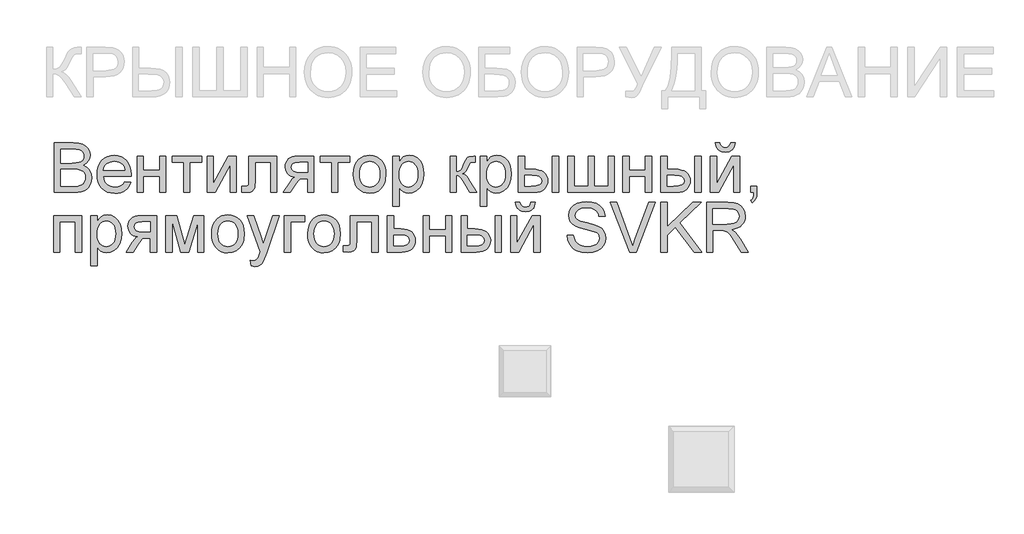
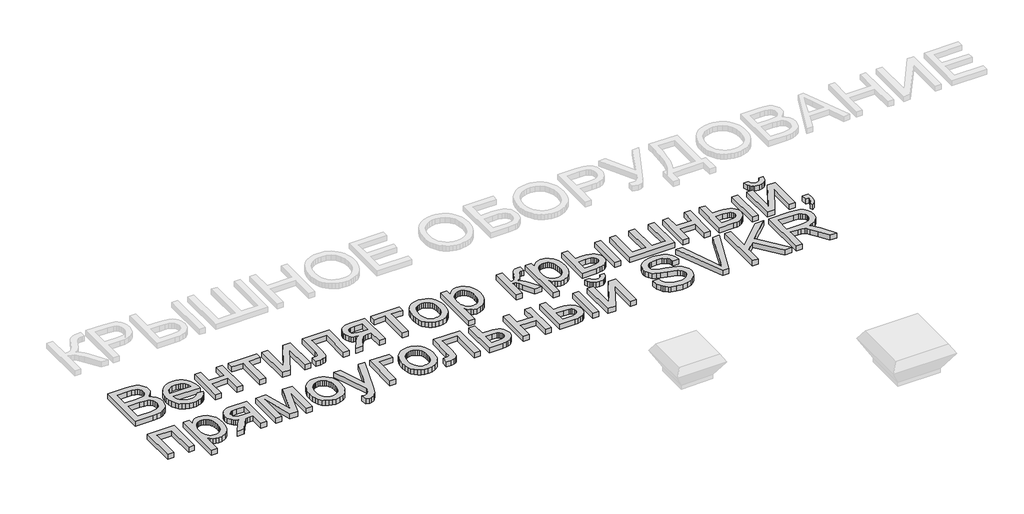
# One storey, part 30 of 31: 1 proxy.
"""IFC4 building model written with IfcOpenShell, lengths in millimetres."""

from ifc_helpers import new_model, si_unit, origin, origin_with_axes, place, context, project, spatial, polyline, outline, extrude, element, save

model = new_model("IFC4")

# Units and contexts
model_context = context("Model", 3, world=origin())
ifc_project = project(units=[si_unit("LENGTHUNIT", "METRE", prefix="MILLI")], contexts=[model_context])

# Site, building, storey
site = spatial("IfcSite", under=ifc_project)
building = spatial("IfcBuilding", under=site)
storey = spatial("IfcBuildingStorey", under=building, Name="Этаж 01", Elevation=0.0)

# Proxy
placement = place(None, origin())
element("IfcBuildingElementProxy", 1, Name="450 мм Arial", ObjectType="450 мм Arial", at=placement, inside=storey, context=model_context, shape_type="SweptSolid", body=[
    extrude(outline(polyline([(77219.0852891, -2479.5055236), (77219.0852891, -2029.8493808), (77390.6703846, -2029.8493808), (77437.8617749, -2033.1564832), (77474.7064631, -2043.0777903), (77502.9471962, -2059.8603056), (77524.326721, -2083.7510327), (77537.7884116, -2111.8545416), (77542.2756418, -2141.2754025), (77538.5019773, -2168.3497302), (77527.1809837, -2193.8048128), (77508.2303265, -2216.0762947), (77481.5676713, -2233.5998205), (77513.4173999, -2250.2313893), (77536.9513442, -2275.5355253), (77551.4833832, -2307.8380936), (77556.3273962, -2345.4649596), (77553.0202939, -2376.8206812), (77543.0989868, -2405.8984817), (77528.2924994, -2430.6262762), (77510.3298562, -2448.9319797), (77488.3328226, -2462.1878341), (77461.423164, -2471.7660807), (77428.7226455, -2477.5706629), (77389.3530327, -2479.5055236), (77219.0852891, -2479.5055236)]), holes=[polyline([(77275.292307, -2212.5221888), (77377.9359822, -2212.5221888), (77413.8338236, -2211.3146162), (77437.8754973, -2207.6918982), (77458.8570721, -2199.3623914), (77473.9380078, -2186.8887149), (77483.0359699, -2170.4629824), (77486.0686239, -2150.2773077), (77483.2418061, -2130.681697), (77474.7613528, -2113.6110109), (77461.0114915, -2100.2865445), (77442.3764499, -2091.9295929), (77413.778934, -2087.5246972), (77370.1416496, -2086.0563987), (77275.292307, -2086.0563987), (77275.292307, -2212.5221888)]), polyline([(77275.292307, -2423.2985058), (77390.5606053, -2423.2985058), (77432.2767514, -2421.1029192), (77451.639081, -2416.2314613), (77467.5708065, -2408.8625237), (77480.5247677, -2398.3099854), (77490.9538042, -2383.8877257), (77497.8287348, -2366.2406981), (77500.1203784, -2346.0138562), (77497.4307848, -2322.5210792), (77489.3620039, -2302.3216822), (77475.2690822, -2286.5271809), (77454.5070661, -2276.2490909), (77425.0999276, -2270.6091777), (77385.0716387, -2268.7292067), (77275.292307, -2268.7292067), (77275.292307, -2423.2985058)])]), origin_with_axes(), (0.0, 0.0, 1.0), 50.0),
    extrude(outline(polyline([(77857.7814412, -2381.1432424), (77912.8906657, -2388.1691196), (77904.4410878, -2410.2416265), (77893.0343291, -2429.6931519), (77878.6703897, -2446.5236957), (77861.3492695, -2460.7332579), (77841.24936, -2472.0199455), (77818.5490525, -2480.0818651), (77793.2483472, -2484.9190169), (77765.3472439, -2486.5314009), (77730.4717224, -2483.7491809), (77699.3973103, -2475.4025211), (77672.1240076, -2461.4914214), (77648.6518142, -2442.0158818), (77629.7766304, -2417.5179378), (77616.2943562, -2388.5396249), (77608.2049917, -2355.0809429), (77605.5085369, -2317.141892), (77608.2324365, -2277.9163645), (77616.4041355, -2243.3427362), (77630.0236339, -2213.4210071), (77649.0909316, -2188.1511772), (77672.5013741, -2168.0752819), (77699.1503068, -2153.7353567), (77729.0377299, -2145.1314016), (77762.1636433, -2142.2634165), (77794.2226387, -2145.1245404), (77823.2146741, -2153.7079119), (77849.1397494, -2168.013531), (77871.9978647, -2188.0413979), (77890.6569205, -2213.2563381), (77903.9848175, -2243.1231776), (77911.9815557, -2277.6419162), (77914.6471351, -2316.812554), (77914.3177971, -2331.9621018), (77661.7155547, -2331.9621018), (77664.971198, -2354.3913915), (77671.444748, -2374.0350307), (77681.1362046, -2390.8930193), (77694.0455679, -2404.9653574), (77709.4592722, -2416.0599311), (77726.6637519, -2423.9846266), (77745.6590069, -2428.7394439), (77766.4450372, -2430.324383), (77796.3599051, -2427.3877859), (77821.5542617, -2418.5779945), (77842.0281071, -2403.3461122), (77857.7814412, -2381.1432424)]), holes=[polyline([(77661.7155547, -2275.7550839), (77858.4401172, -2275.7550839), (77850.8378985, -2246.0597747), (77835.9353542, -2224.817474), (77820.607415, -2213.2906442), (77803.1662237, -2205.0571943), (77783.6117802, -2200.1171244), (77761.9440846, -2198.4704344), (77724.0564927, -2203.7261199), (77692.7282159, -2219.4931764), (77680.2716924, -2230.8930739), (77670.950741, -2244.0700243), (77664.7653618, -2259.0240276), (77661.7155547, -2275.7550839)])]), origin_with_axes(), (0.0, 0.0, 1.0), 50.0),
    extrude(outline(polyline([(77970.8541529, -2149.2892938), (78027.0611708, -2149.2892938), (78027.0611708, -2275.7550839), (78174.6045926, -2275.7550839), (78174.6045926, -2149.2892938), (78230.8116105, -2149.2892938), (78230.8116105, -2479.5055236), (78174.6045926, -2479.5055236), (78174.6045926, -2331.9621018), (78027.0611708, -2331.9621018), (78027.0611708, -2479.5055236), (77970.8541529, -2479.5055236), (77970.8541529, -2149.2892938)])), origin_with_axes(), (0.0, 0.0, 1.0), 50.0),
    extrude(outline(polyline([(78287.0186283, -2149.2892938), (78554.0019631, -2149.2892938), (78554.0019631, -2205.4963116), (78448.6138046, -2205.4963116), (78448.6138046, -2479.5055236), (78392.4067868, -2479.5055236), (78392.4067868, -2205.4963116), (78287.0186283, -2205.4963116), (78287.0186283, -2149.2892938)])), origin_with_axes(), (0.0, 0.0, 1.0), 50.0),
    extrude(outline(polyline([(78603.1831037, -2149.2892938), (78659.3901216, -2149.2892938), (78659.3901216, -2401.1230808), (78797.4925209, -2149.2892938), (78870.1664385, -2149.2892938), (78870.1664385, -2479.5055236), (78813.9594207, -2479.5055236), (78813.9594207, -2229.2086473), (78676.735256, -2479.5055236), (78603.1831037, -2479.5055236), (78603.1831037, -2149.2892938)])), origin_with_axes(), (0.0, 0.0, 1.0), 50.0),
    extrude(outline(polyline([(78982.5804742, -2149.2892938), (79235.5120546, -2149.2892938), (79235.5120546, -2479.1761856), (79179.3050367, -2479.1761856), (79179.3050367, -2205.4963116), (79038.7874921, -2205.4963116), (79038.7874921, -2363.0296527), (79035.0001051, -2435.7035703), (79027.9056158, -2452.1567476), (79014.1969218, -2466.3868935), (78993.3937384, -2476.2258661), (78965.0157812, -2479.5055236), (78919.3475792, -2476.651261), (78919.3475792, -2423.2985058), (78944.4870461, -2423.2985058), (78969.9009614, -2419.8404568), (78976.2544403, -2415.3669491), (78980.0555496, -2408.8625237), (78982.5804742, -2359.846052), (78982.5804742, -2149.2892938)])), origin_with_axes(), (0.0, 0.0, 1.0), 50.0),
    extrude(outline(polyline([(79572.7541617, -2149.2892938), (79572.7541617, -2479.5055236), (79516.5471438, -2479.5055236), (79516.5471438, -2353.0397335), (79485.9187103, -2353.0397335), (79461.492809, -2354.8236476), (79444.2025642, -2360.17539), (79427.5435506, -2375.7366103), (79405.0113428, -2408.148958), (79360.2213754, -2479.5055236), (79295.232011, -2479.5055236), (79351.6585876, -2389.2669129), (79376.5784959, -2356.8820101), (79388.2974395, -2347.4409876), (79399.5223762, -2342.5009176), (79378.8838618, -2337.9382141), (79361.0996101, -2330.7270843), (79346.169621, -2320.8675281), (79334.0938945, -2308.3595455), (79318.1210017, -2278.6093465), (79312.7967041, -2244.687533), (79314.6149243, -2224.4469688), (79320.0695849, -2206.2098773), (79329.1606858, -2189.9762586), (79341.888227, -2175.7461127), (79358.0600948, -2164.1712544), (79377.4841754, -2155.9034985), (79400.1604686, -2150.9428449), (79426.0889745, -2149.2892938), (79572.7541617, -2149.2892938)]), holes=[polyline([(79516.5471438, -2205.4963116), (79442.4460949, -2205.4963116), (79404.1742754, -2208.7485243), (79391.2443285, -2212.8137902), (79382.4516901, -2218.5051624), (79372.365714, -2232.625529), (79369.003722, -2248.968927), (79373.9575143, -2270.3896191), (79388.8188914, -2285.2509961), (79416.2774467, -2293.9372857), (79459.022774, -2296.8327156), (79516.5471438, -2296.8327156), (79516.5471438, -2205.4963116)])]), origin_with_axes(), (0.0, 0.0, 1.0), 50.0),
    extrude(outline(polyline([(79628.9611795, -2149.2892938), (79895.9445143, -2149.2892938), (79895.9445143, -2205.4963116), (79790.5563559, -2205.4963116), (79790.5563559, -2479.5055236), (79734.349338, -2479.5055236), (79734.349338, -2205.4963116), (79628.9611795, -2205.4963116), (79628.9611795, -2149.2892938)])), origin_with_axes(), (0.0, 0.0, 1.0), 50.0),
    extrude(outline(polyline([(79931.0739005, -2314.3974087), (79934.1134157, -2271.6314978), (79943.2319615, -2234.7799484), (79958.4295377, -2203.8427604), (79979.7061445, -2178.819934), (80001.1268366, -2162.8264576), (80024.7705601, -2151.4025459), (80050.6373152, -2144.5481989), (80078.7271017, -2142.2634165), (80109.7363323, -2145.0456365), (80137.7746598, -2153.3922963), (80162.842084, -2167.303396), (80184.9386052, -2186.7789355), (80202.973291, -2211.160239), (80215.8552095, -2239.7886304), (80223.5843605, -2272.6641096), (80226.1607442, -2309.7866768), (80221.604902, -2366.5700361), (80215.9100991, -2389.8775605), (80207.9373752, -2409.795648), (80185.5561139, -2442.1668284), (80154.8590683, -2466.3868935), (80118.3986077, -2481.495274), (80078.7271017, -2486.5314009), (80047.2650313, -2483.7594727), (80018.965978, -2475.4436884), (79993.8299416, -2461.5840477), (79971.8569222, -2442.1805508), (79954.0143502, -2417.5625357), (79941.2696559, -2388.0593403), (79933.6228394, -2353.6709646), (79931.0739005, -2314.3974087)]), holes=[polyline([(79987.2809183, -2314.2876294), (79988.9070247, -2341.5506403), (79993.7853438, -2365.1566272), (80001.9158755, -2385.1055902), (80013.29862, -2401.3975291), (80027.1445382, -2414.0530277), (80042.6645912, -2423.0926695), (80059.858779, -2428.5164546), (80078.7271017, -2430.324383), (80097.4993674, -2428.5061628), (80114.6249432, -2423.0515023), (80130.1038289, -2413.9604014), (80143.9360247, -2401.2328601), (80155.3187692, -2384.7796828), (80163.449301, -2364.5116736), (80168.32762, -2340.4288327), (80169.9537264, -2312.5311601), (80168.3173282, -2286.1326614), (80163.4081337, -2263.1441832), (80155.2261429, -2243.5657255), (80143.7713557, -2227.3972883), (80129.8877009, -2214.7417897), (80114.4191069, -2205.7021479), (80097.3655739, -2200.2783627), (80078.7271017, -2198.4704344), (80059.858779, -2200.2715015), (80042.6645912, -2205.674703), (80027.1445382, -2214.6800388), (80013.29862, -2227.287509), (80001.9158755, -2243.5314195), (79993.7853438, -2263.4460764), (79988.9070247, -2287.0314797), (79987.2809183, -2314.2876294)])]), origin_with_axes(), (0.0, 0.0, 1.0), 50.0),
    extrude(outline(polyline([(80289.3936393, -2605.9713138), (80289.3936393, -2149.2892938), (80345.6006572, -2149.2892938), (80345.6006572, -2204.3985183), (80363.9338056, -2177.2144113), (80384.4625406, -2157.797192), (80408.3944349, -2146.1468604), (80436.9370612, -2142.2634165), (80474.9481548, -2147.6974934), (80508.1838475, -2163.9997242), (80535.2444527, -2190.1820948), (80554.7302841, -2225.2565913), (80566.5041175, -2266.6708442), (80570.4287286, -2311.8724841), (80565.996388, -2359.942109), (80552.6993665, -2402.9344397), (80530.9630588, -2438.6676122), (80501.2128599, -2464.9597622), (80466.5637583, -2481.1384912), (80430.1307426, -2486.5314009), (80404.2914324, -2482.9224053), (80381.2240503, -2472.0954187), (80361.477493, -2455.7520207), (80345.6006572, -2435.5937909), (80345.6006572, -2605.9713138), (80289.3936393, -2605.9713138)]), holes=[polyline([(80345.6006572, -2317.0321127), (80347.1204148, -2344.1201628), (80351.6796877, -2367.4208259), (80359.2784758, -2386.9341021), (80369.9167791, -2402.6599914), (80382.7232243, -2414.7631627), (80396.8264378, -2423.4082851), (80412.2264197, -2428.5953585), (80428.92317, -2430.324383), (80445.8600625, -2428.5336077), (80461.5413539, -2423.1612816), (80475.9670442, -2414.2074049), (80489.1371334, -2401.6719774), (80500.111636, -2385.3766079), (80507.9505664, -2365.1429048), (80512.6539246, -2340.9708682), (80514.2217107, -2312.8604981), (80512.6916613, -2286.005729), (80508.101513, -2262.7462331), (80500.4512658, -2243.0820103), (80489.7409197, -2227.0130606), (80476.9035991, -2214.5256616), (80462.8724283, -2205.6060909), (80447.6474072, -2200.2543485), (80431.2285359, -2198.4704344), (80414.8611237, -2200.3675585), (80399.4611418, -2206.0589307), (80385.0285903, -2215.5445511), (80371.5634691, -2228.8244196), (80360.2047389, -2245.7201449), (80352.0913601, -2266.0533355), (80347.2233329, -2289.8239914), (80345.6006572, -2317.0321127)])]), origin_with_axes(), (0.0, 0.0, 1.0), 50.0),
    extrude(outline(polyline([(80809.3085544, -2149.2892938), (80865.5155723, -2149.2892938), (80865.5155723, -2289.8068384), (80888.3771181, -2287.2819138), (80903.1698831, -2279.7071399), (80916.2610684, -2259.9468602), (80934.0178753, -2220.8654181), (80948.3303557, -2188.9059101), (80959.6513493, -2170.0924771), (80970.2176099, -2159.841832), (80982.2658916, -2153.5706877), (81023.3782513, -2149.2892938), (81034.1366258, -2149.2892938), (81034.1366258, -2205.8256496), (81018.9870781, -2205.4963116), (81001.422385, -2206.9783326), (80991.5422451, -2211.4243955), (80972.2210827, -2248.4200303), (80960.3511925, -2273.0792127), (80949.5516507, -2288.4345967), (80936.4741878, -2298.6852418), (80917.7705342, -2308.0302075), (80935.5822308, -2315.9411805), (80953.2292584, -2329.9037393), (80970.7116169, -2349.9178837), (80988.0293065, -2375.9836138), (81048.1883803, -2479.5055236), (80984.2968092, -2479.5055236), (80925.3453081, -2378.1792004), (80909.427305, -2351.2146521), (80895.7048885, -2335.3103714), (80881.8452479, -2327.5297613), (80865.5155723, -2324.9362245), (80865.5155723, -2479.5055236), (80809.3085544, -2479.5055236), (80809.3085544, -2149.2892938)])), origin_with_axes(), (0.0, 0.0, 1.0), 50.0),
    extrude(outline(polyline([(81083.3177665, -2605.9713138), (81083.3177665, -2149.2892938), (81139.5247843, -2149.2892938), (81139.5247843, -2204.3985183), (81157.8579327, -2177.2144113), (81178.3866678, -2157.797192), (81202.3185621, -2146.1468604), (81230.8611883, -2142.2634165), (81268.8722819, -2147.6974934), (81302.1079746, -2163.9997242), (81329.1685799, -2190.1820948), (81348.6544113, -2225.2565913), (81360.4282446, -2266.6708442), (81364.3528557, -2311.8724841), (81359.9205152, -2359.942109), (81346.6234937, -2402.9344397), (81324.887186, -2438.6676122), (81295.1369871, -2464.9597622), (81260.4878855, -2481.1384912), (81224.0548698, -2486.5314009), (81198.2155596, -2482.9224053), (81175.1481775, -2472.0954187), (81155.4016202, -2455.7520207), (81139.5247843, -2435.5937909), (81139.5247843, -2605.9713138), (81083.3177665, -2605.9713138)]), holes=[polyline([(81139.5247843, -2317.0321127), (81141.0445419, -2344.1201628), (81145.6038148, -2367.4208259), (81153.2026029, -2386.9341021), (81163.8409063, -2402.6599914), (81176.6473515, -2414.7631627), (81190.750565, -2423.4082851), (81206.1505469, -2428.5953585), (81222.8472971, -2430.324383), (81239.7841896, -2428.5336077), (81255.4654811, -2423.1612816), (81269.8911714, -2414.2074049), (81283.0612606, -2401.6719774), (81294.0357631, -2385.3766079), (81301.8746936, -2365.1429048), (81306.5780518, -2340.9708682), (81308.1458379, -2312.8604981), (81306.6157884, -2286.005729), (81302.0256401, -2262.7462331), (81294.375393, -2243.0820103), (81283.6650469, -2227.0130606), (81270.8277263, -2214.5256616), (81256.7965555, -2205.6060909), (81241.5715344, -2200.2543485), (81225.1526631, -2198.4704344), (81208.7852508, -2200.3675585), (81193.385269, -2206.0589307), (81178.9527174, -2215.5445511), (81165.4875963, -2228.8244196), (81154.128866, -2245.7201449), (81146.0154873, -2266.0533355), (81141.1474601, -2289.8239914), (81139.5247843, -2317.0321127)])]), origin_with_axes(), (0.0, 0.0, 1.0), 50.0),
    extrude(outline(polyline([(81427.5857508, -2149.2892938), (81483.7927687, -2149.2892938), (81483.7927687, -2268.7292067), (81553.2830857, -2268.7292067), (81585.2597466, -2270.4891066), (81613.3461025, -2275.7688063), (81637.5421534, -2284.5683059), (81657.8478991, -2296.8876053), (81673.9134182, -2312.3013096), (81685.388789, -2330.3840239), (81692.2740115, -2351.1357482), (81694.5690856, -2374.5564825), (81692.6445167, -2395.4522922), (81686.87081, -2414.7768852), (81677.2479654, -2432.5302615), (81663.7759831, -2448.7124211), (81646.0774964, -2462.1844035), (81623.7751391, -2471.807248), (81596.868911, -2477.5809547), (81565.3588121, -2479.5055236), (81427.5857508, -2479.5055236), (81427.5857508, -2149.2892938)]), holes=[polyline([(81483.7927687, -2423.2985058), (81541.5366972, -2423.2985058), (81586.2992197, -2420.3481862), (81616.0768634, -2411.4972276), (81632.7907667, -2396.3888471), (81638.3620678, -2374.6662618), (81634.2316204, -2356.3056686), (81621.8402783, -2340.0857723), (81611.0853344, -2333.4578452), (81595.3422921, -2328.7236115), (81548.8919124, -2324.9362245), (81483.7927687, -2324.9362245), (81483.7927687, -2423.2985058)])]), origin_with_axes(), (0.0, 0.0, 1.0), 50.0),
    extrude(outline(polyline([(81736.724349, -2149.2892938), (81792.9313669, -2149.2892938), (81792.9313669, -2479.5055236), (81736.724349, -2479.5055236), (81736.724349, -2149.2892938)])), origin_with_axes(), (0.0, 0.0, 1.0), 50.0),
    extrude(outline(polyline([(81877.2418936, -2149.2892938), (81933.4489115, -2149.2892938), (81933.4489115, -2423.2985058), (82059.9147016, -2423.2985058), (82059.9147016, -2149.2892938), (82116.1217195, -2149.2892938), (82116.1217195, -2423.2985058), (82242.5875097, -2423.2985058), (82242.5875097, -2149.2892938), (82298.7945275, -2149.2892938), (82298.7945275, -2479.5055236), (81877.2418936, -2479.5055236), (81877.2418936, -2149.2892938)])), origin_with_axes(), (0.0, 0.0, 1.0), 50.0),
    extrude(outline(polyline([(82376.0791771, -2149.2892938), (82432.2861949, -2149.2892938), (82432.2861949, -2275.7550839), (82579.8296168, -2275.7550839), (82579.8296168, -2149.2892938), (82636.0366346, -2149.2892938), (82636.0366346, -2479.5055236), (82579.8296168, -2479.5055236), (82579.8296168, -2331.9621018), (82432.2861949, -2331.9621018), (82432.2861949, -2479.5055236), (82376.0791771, -2479.5055236), (82376.0791771, -2149.2892938)])), origin_with_axes(), (0.0, 0.0, 1.0), 50.0),
    extrude(outline(polyline([(82720.3471614, -2149.2892938), (82776.5541793, -2149.2892938), (82776.5541793, -2268.7292067), (82846.0444963, -2268.7292067), (82878.0211572, -2270.4891066), (82906.1075131, -2275.7688063), (82930.303564, -2284.5683059), (82950.6093097, -2296.8876053), (82966.6748288, -2312.3013096), (82978.1501996, -2330.3840239), (82985.0354221, -2351.1357482), (82987.3304962, -2374.5564825), (82985.4059273, -2395.4522922), (82979.6322206, -2414.7768852), (82970.009376, -2432.5302615), (82956.5373937, -2448.7124211), (82938.838907, -2462.1844035), (82916.5365497, -2471.807248), (82889.6303216, -2477.5809547), (82858.1202227, -2479.5055236), (82720.3471614, -2479.5055236), (82720.3471614, -2149.2892938)]), holes=[polyline([(82776.5541793, -2423.2985058), (82834.2981078, -2423.2985058), (82879.0606303, -2420.3481862), (82908.838274, -2411.4972276), (82925.5521773, -2396.3888471), (82931.1234784, -2374.6662618), (82926.993031, -2356.3056686), (82914.6016889, -2340.0857723), (82903.846745, -2333.4578452), (82888.1037027, -2328.7236115), (82841.653323, -2324.9362245), (82776.5541793, -2324.9362245), (82776.5541793, -2423.2985058)])]), origin_with_axes(), (0.0, 0.0, 1.0), 50.0),
    extrude(outline(polyline([(83029.4857596, -2149.2892938), (83085.6927775, -2149.2892938), (83085.6927775, -2479.5055236), (83029.4857596, -2479.5055236), (83029.4857596, -2149.2892938)])), origin_with_axes(), (0.0, 0.0, 1.0), 50.0),
    extrude(outline(polyline([(83170.0033042, -2149.2892938), (83226.2103221, -2149.2892938), (83226.2103221, -2401.1230808), (83364.3127214, -2149.2892938), (83436.986639, -2149.2892938), (83436.986639, -2479.5055236), (83380.7796212, -2479.5055236), (83380.7796212, -2229.2086473), (83243.5554565, -2479.5055236), (83170.0033042, -2479.5055236), (83170.0033042, -2149.2892938)])), origin_with_axes(), (0.0, 0.0, 1.0), 50.0),
    extrude(outline(polyline([(83352.6761122, -2029.8493808), (83394.8313756, -2029.8493808), (83385.7608584, -2065.8432792), (83377.7984262, -2080.2895532), (83367.5512117, -2092.3687102), (83355.2250511, -2101.9023591), (83341.0257807, -2108.7121083), (83307.0079102, -2114.1599076), (83270.0946099, -2108.7532755), (83254.7460871, -2101.9949854), (83241.4696492, -2092.5333792), (83230.45741, -2080.5056812), (83221.9014833, -2066.0491155), (83212.1585676, -2029.8493808), (83254.313831, -2029.8493808), (83260.2419149, -2048.3609206), (83270.1220548, -2061.520718), (83284.0091402, -2069.3836627), (83301.958061, -2072.0046442), (83322.2123477, -2069.4659972), (83336.8678885, -2061.850056), (83346.7480283, -2048.7725931), (83352.6761122, -2029.8493808)])), origin_with_axes(), (0.0, 0.0, 1.0), 50.0),
    extrude(outline(polyline([(83535.3489203, -2479.5055236), (83535.3489203, -2423.2985058), (83591.5559381, -2423.2985058), (83591.5559381, -2479.5055236), (83589.0310135, -2511.6571454), (83581.4562396, -2536.9750038), (83568.3924991, -2556.3922231), (83549.4006747, -2570.8419276), (83535.3489203, -2549.764296), (83547.5344261, -2539.5822629), (83555.9874346, -2525.5030636), (83561.1196184, -2505.9897874), (83563.3426499, -2479.5055236), (83535.3489203, -2479.5055236)])), origin_with_axes(), (0.0, 0.0, 1.0), 50.0),
    extrude(outline(polyline([(77212.0594119, -2689.7213769), (77464.9909922, -2689.7213769), (77464.9909922, -3019.9376068), (77408.7839744, -3019.9376068), (77408.7839744, -2745.9283948), (77268.2664298, -2745.9283948), (77268.2664298, -3019.9376068), (77212.0594119, -3019.9376068), (77212.0594119, -2689.7213769)])), origin_with_axes(), (0.0, 0.0, 1.0), 50.0),
    extrude(outline(polyline([(77549.301519, -3146.403397), (77549.301519, -2689.7213769), (77605.5085369, -2689.7213769), (77605.5085369, -2744.8306015), (77623.8416853, -2717.6464944), (77644.3704203, -2698.2292751), (77668.3023146, -2686.5789436), (77696.8449409, -2682.6954997), (77734.8560345, -2688.1295766), (77768.0917272, -2704.4318074), (77795.1523324, -2730.614178), (77814.6381638, -2765.6886745), (77826.4119972, -2807.1029274), (77830.3366083, -2852.3045672), (77825.9042678, -2900.3741921), (77812.6072462, -2943.3665229), (77790.8709385, -2979.0996954), (77761.1207396, -3005.3918454), (77726.471638, -3021.5705744), (77690.0386223, -3026.963484), (77664.1993121, -3023.3544885), (77641.13193, -3012.5275019), (77621.3853727, -2996.1841039), (77605.5085369, -2976.0258741), (77605.5085369, -3146.403397), (77549.301519, -3146.403397)]), holes=[polyline([(77605.5085369, -2857.4641958), (77607.0282945, -2884.5522459), (77611.5875674, -2907.8529091), (77619.1863555, -2927.3661853), (77629.8246588, -2943.0920746), (77642.631104, -2955.1952459), (77656.7343175, -2963.8403683), (77672.1342994, -2969.0274417), (77688.8310497, -2970.7564662), (77705.7679422, -2968.9656908), (77721.4492336, -2963.5933648), (77735.8749239, -2954.6394881), (77749.0450131, -2942.1040606), (77760.0195157, -2925.8086911), (77767.8584461, -2905.574988), (77772.5618043, -2881.4029514), (77774.1295904, -2853.2925812), (77772.599541, -2826.4378122), (77768.0093927, -2803.1783163), (77760.3591455, -2783.5140935), (77749.6487994, -2767.4451438), (77736.8114788, -2754.9577448), (77722.780308, -2746.0381741), (77707.5552869, -2740.6864317), (77691.1364156, -2738.9025176), (77674.7690034, -2740.7996416), (77659.3690215, -2746.4910139), (77644.93647, -2755.9766342), (77631.4713488, -2769.2565028), (77620.1126186, -2786.1522281), (77611.9992399, -2806.4854187), (77607.1312126, -2830.2560746), (77605.5085369, -2857.4641958)])]), origin_with_axes(), (0.0, 0.0, 1.0), 50.0),
    extrude(outline(polyline([(78146.5010837, -2689.7213769), (78146.5010837, -3019.9376068), (78090.2940658, -3019.9376068), (78090.2940658, -2893.4718166), (78059.6656323, -2893.4718166), (78035.239731, -2895.2557308), (78017.9494862, -2900.6074732), (78001.2904726, -2916.1686935), (77978.7582648, -2948.5810412), (77933.9682974, -3019.9376068), (77868.978933, -3019.9376068), (77925.4055096, -2929.6989961), (77950.3254179, -2897.3140933), (77962.0443615, -2887.8730707), (77973.2692982, -2882.9330008), (77952.6307838, -2878.3702973), (77934.8465321, -2871.1591675), (77919.916543, -2861.2996112), (77907.8408165, -2848.7916286), (77891.8679237, -2819.0414297), (77886.5436261, -2785.1196162), (77888.3618463, -2764.8790519), (77893.8165069, -2746.6419604), (77902.9076078, -2730.4083418), (77915.635149, -2716.1781959), (77931.8070168, -2704.6033376), (77951.2310974, -2696.3355817), (77973.9073906, -2691.3749281), (77999.8358965, -2689.7213769), (78146.5010837, -2689.7213769)]), holes=[polyline([(78090.2940658, -2745.9283948), (78016.1930169, -2745.9283948), (77977.9211974, -2749.1806075), (77964.9912505, -2753.2458734), (77956.1986121, -2758.9372456), (77946.112636, -2773.0576121), (77942.750644, -2789.4010102), (77947.7044363, -2810.8217023), (77962.5658134, -2825.6830793), (77990.0243687, -2834.3693689), (78032.769696, -2837.2647988), (78090.2940658, -2837.2647988), (78090.2940658, -2745.9283948)])]), origin_with_axes(), (0.0, 0.0, 1.0), 50.0),
    extrude(outline(polyline([(78230.8116105, -2689.7213769), (78327.5272017, -2689.7213769), (78402.067368, -2954.0700078), (78482.4258388, -2689.7213769), (78575.0795948, -2689.7213769), (78575.0795948, -3019.9376068), (78518.872577, -3019.9376068), (78518.872577, -2754.0520653), (78438.0749888, -3019.9376068), (78364.3032779, -3019.9376068), (78287.0186283, -2741.3176629), (78287.0186283, -3019.9376068), (78230.8116105, -3019.9376068), (78230.8116105, -2689.7213769)])), origin_with_axes(), (0.0, 0.0, 1.0), 50.0),
    extrude(outline(polyline([(78645.3383671, -2854.8294919), (78648.3778824, -2812.063581), (78657.4964281, -2775.2120315), (78672.6940044, -2744.2748436), (78693.9706111, -2719.2520172), (78715.3913032, -2703.2585408), (78739.0350268, -2691.8346291), (78764.9017818, -2684.980282), (78792.9915683, -2682.6954997), (78824.0007989, -2685.4777196), (78852.0391264, -2693.8243795), (78877.1065507, -2707.7354792), (78899.2030718, -2727.2110187), (78917.2377576, -2751.5923222), (78930.1196761, -2780.2207135), (78937.8488272, -2813.0961928), (78940.4252109, -2850.2187599), (78935.8693686, -2907.0021193), (78930.1745658, -2930.3096437), (78922.2018418, -2950.2277312), (78899.8205805, -2982.5989116), (78869.1235349, -3006.8189767), (78832.6630743, -3021.9273572), (78792.9915683, -3026.963484), (78761.529498, -3024.1915559), (78733.2304446, -3015.8757715), (78708.0944082, -3002.0161309), (78686.1213889, -2982.612634), (78668.2788169, -2957.9946189), (78655.5341226, -2928.4914235), (78647.887306, -2894.1030478), (78645.3383671, -2854.8294919)]), holes=[polyline([(78701.545385, -2854.7197125), (78703.1714913, -2881.9827235), (78708.0498104, -2905.5887104), (78716.1803421, -2925.5376733), (78727.5630866, -2941.8296123), (78741.4090048, -2954.4851109), (78756.9290578, -2963.5247527), (78774.1232457, -2968.9485378), (78792.9915683, -2970.7564662), (78811.7638341, -2968.938246), (78828.8894098, -2963.4835855), (78844.3682956, -2954.3924846), (78858.2004914, -2941.6649433), (78869.5832358, -2925.2117659), (78877.7137676, -2904.9437568), (78882.5920866, -2880.8609159), (78884.218193, -2852.9632432), (78882.5817948, -2826.5647446), (78877.6726003, -2803.5762664), (78869.4906095, -2783.9978087), (78858.0358224, -2767.8293715), (78844.1521675, -2755.1738729), (78828.6835736, -2746.134231), (78811.6300405, -2740.7104459), (78792.9915683, -2738.9025176), (78774.1232457, -2740.7035847), (78756.9290578, -2746.1067862), (78741.4090048, -2755.112122), (78727.5630866, -2767.7195921), (78716.1803421, -2783.9635026), (78708.0498104, -2803.8781595), (78703.1714913, -2827.4635628), (78701.545385, -2854.7197125)])]), origin_with_axes(), (0.0, 0.0, 1.0), 50.0),
    extrude(outline(polyline([(79003.6581059, -3146.403397), (78996.6322287, -3092.2821864), (79025.174855, -3097.2222564), (79040.1871786, -3095.6716233), (79051.8512326, -3091.0197241), (79068.208353, -3073.7294794), (79083.5774594, -3032.3426713), (79087.9686327, -3018.7300342), (78968.5287198, -2689.7213769), (79027.8095589, -2689.7213769), (79091.1522333, -2873.0528609), (79113.217879, -2946.3854545), (79135.2835247, -2881.6156488), (79200.3826684, -2689.7213769), (79259.2243902, -2689.7213769), (79144.2854299, -3027.8417187), (79114.4254517, -3101.1743123), (79099.1386797, -3124.5847548), (79081.8209901, -3140.8046511), (79061.7039276, -3150.2731184), (79038.0190368, -3153.4292742), (79003.6581059, -3146.403397)])), origin_with_axes(), (0.0, 0.0, 1.0), 50.0),
    extrude(outline(polyline([(79305.7708269, -2689.7213769), (79488.4436349, -2689.7213769), (79488.4436349, -2745.9283948), (79361.9778447, -2745.9283948), (79361.9778447, -3019.9376068), (79305.7708269, -3019.9376068), (79305.7708269, -2689.7213769)])), origin_with_axes(), (0.0, 0.0, 1.0), 50.0),
    extrude(outline(polyline([(79516.5471438, -2854.8294919), (79519.5866591, -2812.063581), (79528.7052048, -2775.2120315), (79543.9027811, -2744.2748436), (79565.1793878, -2719.2520172), (79586.6000799, -2703.2585408), (79610.2438035, -2691.8346291), (79636.1105585, -2684.980282), (79664.200345, -2682.6954997), (79695.2095756, -2685.4777196), (79723.2479031, -2693.8243795), (79748.3153274, -2707.7354792), (79770.4118485, -2727.2110187), (79788.4465343, -2751.5923222), (79801.3284528, -2780.2207135), (79809.0576039, -2813.0961928), (79811.6339876, -2850.2187599), (79807.0781453, -2907.0021193), (79801.3833425, -2930.3096437), (79793.4106185, -2950.2277312), (79771.0293572, -2982.5989116), (79740.3323116, -3006.8189767), (79703.871851, -3021.9273572), (79664.200345, -3026.963484), (79632.7382747, -3024.1915559), (79604.4392213, -3015.8757715), (79579.3031849, -3002.0161309), (79557.3301656, -2982.612634), (79539.4875936, -2957.9946189), (79526.7428993, -2928.4914235), (79519.0960827, -2894.1030478), (79516.5471438, -2854.8294919)]), holes=[polyline([(79572.7541617, -2854.7197125), (79574.380268, -2881.9827235), (79579.2585871, -2905.5887104), (79587.3891189, -2925.5376733), (79598.7718633, -2941.8296123), (79612.6177815, -2954.4851109), (79628.1378346, -2963.5247527), (79645.3320224, -2968.9485378), (79664.200345, -2970.7564662), (79682.9726108, -2968.938246), (79700.0981865, -2963.4835855), (79715.5770723, -2954.3924846), (79729.4092681, -2941.6649433), (79740.7920125, -2925.2117659), (79748.9225443, -2904.9437568), (79753.8008634, -2880.8609159), (79755.4269697, -2852.9632432), (79753.7905715, -2826.5647446), (79748.8813771, -2803.5762664), (79740.6993862, -2783.9978087), (79729.2445991, -2767.8293715), (79715.3609442, -2755.1738729), (79699.8923503, -2746.134231), (79682.8388172, -2740.7104459), (79664.200345, -2738.9025176), (79645.3320224, -2740.7035847), (79628.1378346, -2746.1067862), (79612.6177815, -2755.112122), (79598.7718633, -2767.7195921), (79587.3891189, -2783.9635026), (79579.2585871, -2803.8781595), (79574.380268, -2827.4635628), (79572.7541617, -2854.7197125)])]), origin_with_axes(), (0.0, 0.0, 1.0), 50.0),
    extrude(outline(polyline([(79902.9703916, -2689.7213769), (80155.9019719, -2689.7213769), (80155.9019719, -3019.6082688), (80099.6949541, -3019.6082688), (80099.6949541, -2745.9283948), (79959.1774094, -2745.9283948), (79959.1774094, -2903.4617358), (79955.3900225, -2976.1356535), (79948.2955332, -2992.5888308), (79934.5868391, -3006.8189767), (79913.7836557, -3016.6579493), (79885.4056985, -3019.9376068), (79839.7374965, -3017.0833442), (79839.7374965, -2963.730589), (79864.8769635, -2963.730589), (79890.2908788, -2960.27254), (79896.6443576, -2955.7990322), (79900.4454669, -2949.2946068), (79902.9703916, -2900.2781352), (79902.9703916, -2689.7213769)])), origin_with_axes(), (0.0, 0.0, 1.0), 50.0),
    extrude(outline(polyline([(80240.2124987, -2689.7213769), (80296.4195165, -2689.7213769), (80296.4195165, -2809.1612899), (80361.1893223, -2809.1612899), (80391.0904677, -2810.9211898), (80417.3414505, -2816.2008895), (80439.9422704, -2825.0003891), (80458.8929275, -2837.3196885), (80473.8778063, -2852.7333928), (80484.5812911, -2870.8161071), (80491.0033821, -2891.5678314), (80493.144079, -2914.9885657), (80491.3224282, -2935.8843753), (80485.8574759, -2955.2089683), (80476.7492219, -2972.9623446), (80463.9976664, -2989.1445043), (80447.2391653, -3002.6164866), (80426.1100746, -3012.2393312), (80400.6103942, -3018.0130379), (80370.7401241, -3019.9376068), (80240.2124987, -3019.9376068), (80240.2124987, -2689.7213769)]), holes=[polyline([(80296.4195165, -2963.730589), (80348.8940371, -2963.730589), (80389.6084468, -2960.7802694), (80416.6827745, -2951.9293108), (80431.8734895, -2936.8209303), (80436.9370612, -2915.098345), (80433.1908415, -2896.7377518), (80421.9521824, -2880.5178555), (80412.1852525, -2873.8899283), (80397.8693415, -2869.1556947), (80355.5905763, -2865.3683077), (80296.4195165, -2865.3683077), (80296.4195165, -2963.730589)])]), origin_with_axes(), (0.0, 0.0, 1.0), 50.0),
    extrude(outline(polyline([(80563.4028513, -2689.7213769), (80619.6098692, -2689.7213769), (80619.6098692, -2816.1871671), (80767.153291, -2816.1871671), (80767.153291, -2689.7213769), (80823.3603089, -2689.7213769), (80823.3603089, -3019.9376068), (80767.153291, -3019.9376068), (80767.153291, -2872.394185), (80619.6098692, -2872.394185), (80619.6098692, -3019.9376068), (80563.4028513, -3019.9376068), (80563.4028513, -2689.7213769)])), origin_with_axes(), (0.0, 0.0, 1.0), 50.0),
    extrude(outline(polyline([(81216.8094339, -2689.7213769), (81273.0164517, -2689.7213769), (81273.0164517, -3019.9376068), (81216.8094339, -3019.9376068), (81216.8094339, -2689.7213769)])), origin_with_axes(), (0.0, 0.0, 1.0), 50.0),
    extrude(outline(polyline([(80907.6708357, -2689.7213769), (80963.8778535, -2689.7213769), (80963.8778535, -2809.1612899), (81033.3681705, -2809.1612899), (81065.3448315, -2810.9211898), (81093.4311874, -2816.2008895), (81117.6272382, -2825.0003891), (81137.932984, -2837.3196885), (81153.9985031, -2852.7333928), (81165.4738739, -2870.8161071), (81172.3590963, -2891.5678314), (81174.6541705, -2914.9885657), (81172.7296016, -2935.8843753), (81166.9558948, -2955.2089683), (81157.3330503, -2972.9623446), (81143.8610679, -2989.1445043), (81126.1625813, -3002.6164866), (81103.8602239, -3012.2393312), (81076.9539958, -3018.0130379), (81045.443897, -3019.9376068), (80907.6708357, -3019.9376068), (80907.6708357, -2689.7213769)]), holes=[polyline([(80963.8778535, -2963.730589), (81021.621782, -2963.730589), (81066.3843045, -2960.7802694), (81096.1619483, -2951.9293108), (81112.8758515, -2936.8209303), (81118.4471526, -2915.098345), (81114.3167053, -2896.7377518), (81101.9253632, -2880.5178555), (81091.1704193, -2873.8899283), (81075.427377, -2869.1556947), (81028.9769973, -2865.3683077), (80963.8778535, -2865.3683077), (80963.8778535, -2963.730589)])]), origin_with_axes(), (0.0, 0.0, 1.0), 50.0),
    extrude(outline(polyline([(81357.3269785, -2689.7213769), (81413.5339963, -2689.7213769), (81413.5339963, -2941.555164), (81551.6363957, -2689.7213769), (81624.3103133, -2689.7213769), (81624.3103133, -3019.9376068), (81568.1032954, -3019.9376068), (81568.1032954, -2769.6407304), (81430.8791308, -3019.9376068), (81357.3269785, -3019.9376068), (81357.3269785, -2689.7213769)])), origin_with_axes(), (0.0, 0.0, 1.0), 50.0),
    extrude(outline(polyline([(81539.9997865, -2570.281464), (81582.1550499, -2570.281464), (81573.0845326, -2606.2753624), (81565.1221005, -2620.7216363), (81554.874886, -2632.8007934), (81542.5487254, -2642.3344423), (81528.3494549, -2649.1441914), (81494.3315845, -2654.5919908), (81457.4182842, -2649.1853587), (81442.0697614, -2642.4270686), (81428.7933235, -2632.9654624), (81417.7810842, -2620.9377644), (81409.2251576, -2606.4811986), (81399.4822419, -2570.281464), (81441.6375053, -2570.281464), (81447.5655892, -2588.7930038), (81457.445729, -2601.9528012), (81471.3328145, -2609.8157458), (81489.2817353, -2612.4367274), (81509.536022, -2609.8980803), (81524.1915627, -2602.2821392), (81534.0717026, -2589.2046763), (81539.9997865, -2570.281464)])), origin_with_axes(), (0.0, 0.0, 1.0), 50.0),
    extrude(outline(polyline([(81870.2160164, -2865.3683077), (81926.4230343, -2865.3683077), (81932.87257, -2896.5593604), (81944.536624, -2921.6302152), (81962.7325482, -2941.5277191), (81988.7776947, -2957.1987187), (82020.6137009, -2967.3670293), (82056.1822044, -2970.7564662), (82087.4967587, -2968.1903743), (82114.9141469, -2960.4920987), (82137.1307391, -2948.3065929), (82152.842906, -2932.2788104), (82162.1878716, -2913.8770499), (82165.3028601, -2894.56961), (82162.9700493, -2875.756177), (82155.9716169, -2859.4951135), (82141.7551935, -2845.6217504), (82117.7684095, -2833.9714188), (82035.9279177, -2812.5095595), (81982.2046572, -2798.3068584), (81947.8300039, -2784.7902782), (81919.8499968, -2765.8807883), (81900.021105, -2742.9643528), (81888.2061044, -2716.5349787), (81884.2677709, -2687.086673), (81889.1392287, -2654.1665959), (81903.7536022, -2623.4695502), (81927.7266638, -2597.4518486), (81960.6741858, -2578.5698035), (82000.22219, -2567.084141), (82043.9966985, -2563.2555868), (82091.4213699, -2567.2625324), (82132.9179573, -2579.2833692), (82167.0044398, -2599.0710937), (82192.1987964, -2626.3787025), (82208.1442443, -2659.5046159), (82214.4840007, -2696.7472542), (82158.2769829, -2696.7472542), (82154.5170408, -2678.8120558), (82147.9577257, -2663.2096683), (82138.5990377, -2649.9400916), (82126.4409767, -2639.0033257), (82111.2571229, -2630.4542602), (82092.8210563, -2624.3477849), (82046.1922852, -2619.4626046), (81998.4657207, -2624.2928952), (81980.221768, -2630.3307585), (81965.724035, -2638.783767), (81946.7871003, -2660.1084022), (81942.0528666, -2672.2733244), (81940.4747887, -2685.439983), (81944.9482965, -2707.0390665), (81958.3688198, -2724.4116458), (81990.0950467, -2739.9454212), (82050.1443411, -2755.8085346), (82112.1147739, -2770.8757479), (82149.6044157, -2784.0218229), (82181.6462581, -2804.4133338), (82204.0000746, -2829.5802456), (82217.1324271, -2859.24811), (82221.509878, -2893.1424787), (82216.4737511, -2927.7915802), (82201.3653706, -2960.3823193), (82176.8022451, -2988.4309386), (82143.4018834, -3009.4536806), (82103.2363704, -3022.5860332), (82058.377791, -3026.963484), (82003.3097337, -3022.2429728), (81957.9845921, -3008.081439), (81938.8452518, -2997.4465662), (81921.8809144, -2984.423993), (81907.0915801, -2969.0137193), (81894.4772487, -2951.2157451), (81876.8851108, -2910.7620614), (81870.2160164, -2865.3683077)])), origin_with_axes(), (0.0, 0.0, 1.0), 50.0),
    extrude(outline(polyline([(82438.6533962, -3019.9376068), (82259.7130854, -2570.281464), (82319.8721592, -2570.281464), (82439.6414101, -2894.240272), (82463.9026425, -2967.2435276), (82487.8345368, -2894.240272), (82607.9331257, -2570.281464), (82668.0921995, -2570.281464), (82496.7266627, -3019.9376068), (82438.6533962, -3019.9376068)])), origin_with_axes(), (0.0, 0.0, 1.0), 50.0),
    extrude(outline(polyline([(82720.3471614, -3019.9376068), (82720.3471614, -2570.281464), (82776.5541793, -2570.281464), (82776.5541793, -2790.3890241), (83007.0907759, -2570.281464), (83085.6927775, -2570.281464), (82892.1518156, -2755.1498587), (83092.7186547, -3019.9376068), (83023.996793, -3019.9376068), (82852.3019182, -2793.1335074), (82776.5541793, -2865.3683077), (82776.5541793, -3019.9376068), (82720.3471614, -3019.9376068)])), origin_with_axes(), (0.0, 0.0, 1.0), 50.0),
    extrude(outline(polyline([(83134.8739181, -3019.9376068), (83134.8739181, -2570.281464), (83328.6344386, -2570.281464), (83380.7110091, -2573.314118), (83418.598601, -2582.4120802), (83446.2904374, -2599.2083179), (83467.7797416, -2625.3357989), (83481.5707701, -2657.7344241), (83486.1677796, -2693.3440949), (83484.2637944, -2716.4389218), (83478.5518385, -2737.6400552), (83469.0319121, -2756.9474952), (83455.7040151, -2774.3612417), (83438.3966173, -2789.3255369), (83416.9381886, -2801.2846228), (83391.3287288, -2810.2384996), (83361.5682381, -2816.1871671), (83393.5140237, -2840.2288408), (83439.0724463, -2898.0825486), (83514.0517299, -3019.9376068), (83448.7330275, -3019.9376068), (83390.2206437, -2926.7349542), (83347.955601, -2865.0389697), (83332.2434341, -2847.0488817), (83318.2602917, -2835.8925571), (83291.5290245, -2825.1890723), (83258.9245629, -2823.2130443), (83191.0809359, -2823.2130443), (83191.0809359, -3019.9376068), (83134.8739181, -3019.9376068)]), holes=[polyline([(83191.0809359, -2767.0060265), (83316.8880501, -2767.0060265), (83353.0191727, -2765.0162761), (83381.0540695, -2759.0470249), (83402.159146, -2748.7003229), (83417.5008076, -2733.57822), (83426.8457733, -2715.2862388), (83429.9607618, -2695.4299022), (83428.4753102, -2681.0556709), (83424.0189555, -2668.0125141), (83406.1935365, -2645.9194236), (83392.5843299, -2637.4183866), (83375.5239357, -2631.3462173), (83331.0495839, -2626.4884819), (83191.0809359, -2626.4884819), (83191.0809359, -2767.0060265)])]), origin_with_axes(), (0.0, 0.0, 1.0), 50.0),
])

save(model, "model.ifc")
